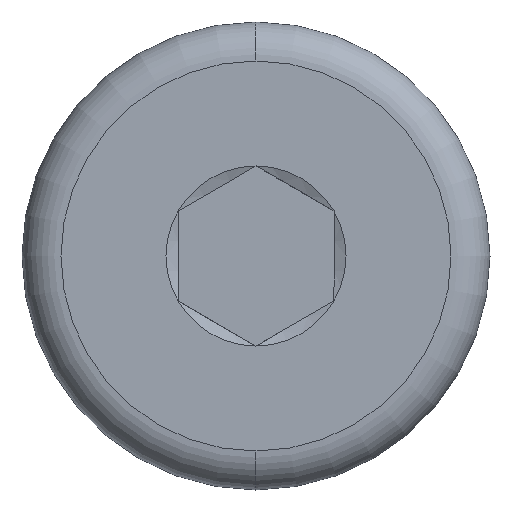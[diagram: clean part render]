
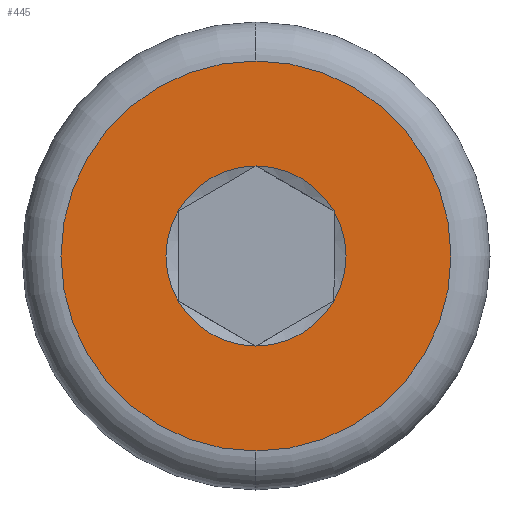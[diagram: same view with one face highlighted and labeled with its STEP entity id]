
A CAD part, left-side view. The second image highlights one B-rep face of the part: STEP entity #445.
In plain terms, the highlighted planar face has unit normal (-1, 0, 0).
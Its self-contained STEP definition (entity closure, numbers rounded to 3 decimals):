
#25 = VERTEX_POINT ( 'NONE', #141 ) ;
#34 = DIRECTION ( 'NONE',  ( 0., 0., 1. ) ) ;
#39 = ORIENTED_EDGE ( 'NONE', *, *, #499, .T. ) ;
#48 = CARTESIAN_POINT ( 'NONE',  ( 0., 0., 0. ) ) ;
#64 = CIRCLE ( 'NONE', #319, 1.155 ) ;
#65 = EDGE_CURVE ( 'NONE', #200, #123, #434, .T. ) ;
#74 = CIRCLE ( 'NONE', #408, 1.155 ) ;
#76 = CARTESIAN_POINT ( 'NONE',  ( 0., 0., 0. ) ) ;
#77 = CARTESIAN_POINT ( 'NONE',  ( 0., 0., 0. ) ) ;
#79 = CARTESIAN_POINT ( 'NONE',  ( 0., 0., 0. ) ) ;
#81 = EDGE_CURVE ( 'NONE', #25, #655, #74, .T. ) ;
#83 = DIRECTION ( 'NONE',  ( 0., 0., -1. ) ) ;
#96 = CIRCLE ( 'NONE', #265, 1.155 ) ;
#114 = ORIENTED_EDGE ( 'NONE', *, *, #340, .F. ) ;
#117 = DIRECTION ( 'NONE',  ( 0., 0., -1. ) ) ;
#123 = VERTEX_POINT ( 'NONE', #425 ) ;
#131 = VERTEX_POINT ( 'NONE', #196 ) ;
#136 = DIRECTION ( 'NONE',  ( 0., 0., -1. ) ) ;
#139 = DIRECTION ( 'NONE',  ( 0., 0., -1. ) ) ;
#141 = CARTESIAN_POINT ( 'NONE',  ( 0., -1., -0.577 ) ) ;
#153 = CIRCLE ( 'NONE', #548, 2.5 ) ;
#164 = AXIS2_PLACEMENT_3D ( 'NONE', #48, #263, #480 ) ;
#168 = ORIENTED_EDGE ( 'NONE', *, *, #454, .T. ) ;
#177 = AXIS2_PLACEMENT_3D ( 'NONE', #642, #222, #330 ) ;
#183 = DIRECTION ( 'NONE',  ( 1., 0., 0. ) ) ;
#185 = DIRECTION ( 'NONE',  ( 1., 0., 0. ) ) ;
#196 = CARTESIAN_POINT ( 'NONE',  ( 0., 1., -0.577 ) ) ;
#200 = VERTEX_POINT ( 'NONE', #361 ) ;
#222 = DIRECTION ( 'NONE',  ( 1., 0., 0. ) ) ;
#227 = ORIENTED_EDGE ( 'NONE', *, *, #423, .T. ) ;
#234 = DIRECTION ( 'NONE',  ( 1., 0., 0. ) ) ;
#237 = CARTESIAN_POINT ( 'NONE',  ( 0., 0., 1.155 ) ) ;
#244 = FACE_BOUND ( 'NONE', #547, .T. ) ;
#263 = DIRECTION ( 'NONE',  ( 1., 0., 0. ) ) ;
#265 = AXIS2_PLACEMENT_3D ( 'NONE', #79, #185, #136 ) ;
#281 = CARTESIAN_POINT ( 'NONE',  ( 0., 0., 0. ) ) ;
#286 = AXIS2_PLACEMENT_3D ( 'NONE', #507, #657, #288 ) ;
#288 = DIRECTION ( 'NONE',  ( 0., 0., -1. ) ) ;
#289 = DIRECTION ( 'NONE',  ( 1., 0., 0. ) ) ;
#307 = ORIENTED_EDGE ( 'NONE', *, *, #65, .F. ) ;
#314 = ORIENTED_EDGE ( 'NONE', *, *, #81, .T. ) ;
#319 = AXIS2_PLACEMENT_3D ( 'NONE', #349, #234, #139 ) ;
#323 = EDGE_CURVE ( 'NONE', #652, #25, #502, .T. ) ;
#326 = DIRECTION ( 'NONE',  ( 1., 0., 0. ) ) ;
#327 = ORIENTED_EDGE ( 'NONE', *, *, #618, .T. ) ;
#330 = DIRECTION ( 'NONE',  ( 0., 0., -1. ) ) ;
#332 = AXIS2_PLACEMENT_3D ( 'NONE', #76, #664, #34 ) ;
#340 = EDGE_CURVE ( 'NONE', #123, #200, #153, .T. ) ;
#349 = CARTESIAN_POINT ( 'NONE',  ( 0., 0., 0. ) ) ;
#361 = CARTESIAN_POINT ( 'NONE',  ( 0., 0., -2.5 ) ) ;
#406 = CIRCLE ( 'NONE', #164, 1.155 ) ;
#408 = AXIS2_PLACEMENT_3D ( 'NONE', #661, #183, #83 ) ;
#423 = EDGE_CURVE ( 'NONE', #633, #551, #64, .T. ) ;
#425 = CARTESIAN_POINT ( 'NONE',  ( 0., 0., 2.5 ) ) ;
#434 = CIRCLE ( 'NONE', #537, 2.5 ) ;
#445 = ADVANCED_FACE ( 'NONE', ( #244, #616 ), #501, .T. ) ;
#452 = DIRECTION ( 'NONE',  ( 0., 0., -1. ) ) ;
#454 = EDGE_CURVE ( 'NONE', #551, #652, #96, .T. ) ;
#480 = DIRECTION ( 'NONE',  ( 0., 0., -1. ) ) ;
#499 = EDGE_CURVE ( 'NONE', #131, #633, #558, .T. ) ;
#501 = PLANE ( 'NONE',  #332 ) ;
#502 = CIRCLE ( 'NONE', #177, 1.155 ) ;
#507 = CARTESIAN_POINT ( 'NONE',  ( 0., 0., 0. ) ) ;
#521 = CARTESIAN_POINT ( 'NONE',  ( 0., 1., 0.577 ) ) ;
#529 = CARTESIAN_POINT ( 'NONE',  ( 0., -1., 0.577 ) ) ;
#537 = AXIS2_PLACEMENT_3D ( 'NONE', #77, #289, #452 ) ;
#547 = EDGE_LOOP ( 'NONE', ( #227, #168, #658, #314, #327, #39 ) ) ;
#548 = AXIS2_PLACEMENT_3D ( 'NONE', #281, #326, #117 ) ;
#551 = VERTEX_POINT ( 'NONE', #237 ) ;
#558 = CIRCLE ( 'NONE', #286, 1.155 ) ;
#567 = EDGE_LOOP ( 'NONE', ( #307, #114 ) ) ;
#582 = CARTESIAN_POINT ( 'NONE',  ( 0., 0., -1.155 ) ) ;
#616 = FACE_OUTER_BOUND ( 'NONE', #567, .T. ) ;
#618 = EDGE_CURVE ( 'NONE', #655, #131, #406, .T. ) ;
#633 = VERTEX_POINT ( 'NONE', #521 ) ;
#642 = CARTESIAN_POINT ( 'NONE',  ( 0., 0., 0. ) ) ;
#652 = VERTEX_POINT ( 'NONE', #529 ) ;
#655 = VERTEX_POINT ( 'NONE', #582 ) ;
#657 = DIRECTION ( 'NONE',  ( 1., 0., 0. ) ) ;
#658 = ORIENTED_EDGE ( 'NONE', *, *, #323, .T. ) ;
#661 = CARTESIAN_POINT ( 'NONE',  ( 0., 0., 0. ) ) ;
#664 = DIRECTION ( 'NONE',  ( -1., 0., 0. ) ) ;
